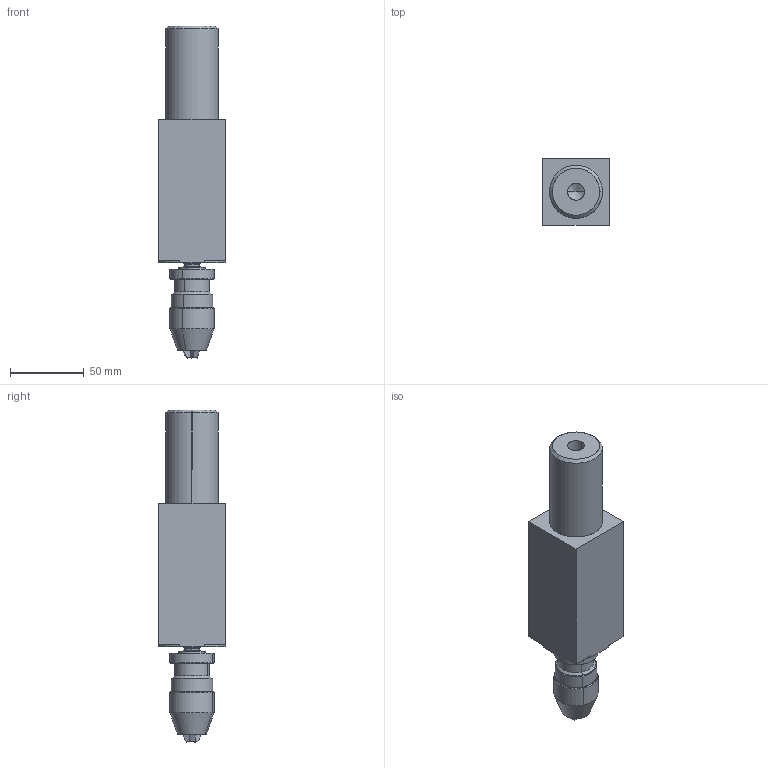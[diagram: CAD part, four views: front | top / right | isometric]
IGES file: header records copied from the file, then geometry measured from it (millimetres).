
Start section: SolidWorks IGES file using analytic representation for surfaces
Global section: file name: R:\Inventor\Kundmodeller Solidworks\BE22SK BE33SK BEP22SK\BEP2222-22220SK with precision chuck Albrecht 0-5mm.IGS; native system: SolidWorks 2008; preprocessor: SolidWorks 2008; author: Johan; date: 091015.093717; units: millimetre
Bounding box: 45 x 45 x 224.5 mm (x, y, z)
Surface area: 37380.6 mm2 (no closed solid volume)
Topology: 0 solids, 0 shells, 109 faces, 1744 edges, 1732 vertices
Faces by surface type: revolution 75, bspline 34
